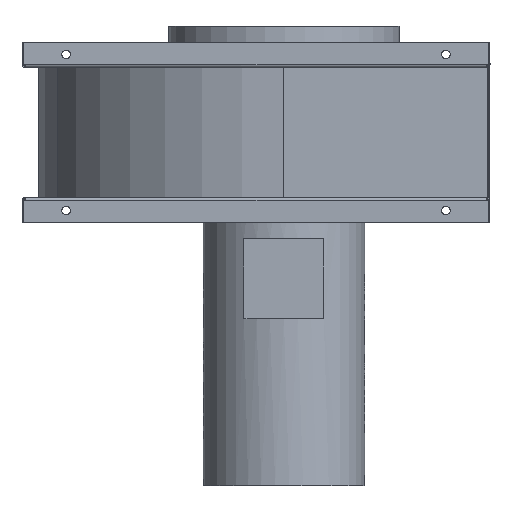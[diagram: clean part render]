
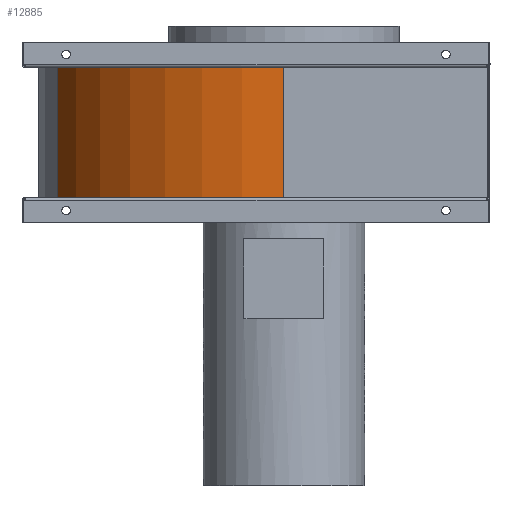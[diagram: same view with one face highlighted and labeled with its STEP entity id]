
A CAD part, left-side view. The second image highlights one B-rep face of the part: STEP entity #12885.
In plain terms, the highlighted cylindrical face has radius 261.548 mm (diameter 523.096 mm), a partial arc.
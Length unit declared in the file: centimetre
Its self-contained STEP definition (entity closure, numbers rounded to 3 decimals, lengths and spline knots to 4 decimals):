
#253=CYLINDRICAL_SURFACE('',#13535,26.1548);
#428=CIRCLE('',#13536,26.1548);
#429=CIRCLE('',#13537,26.1548);
#1551=FACE_OUTER_BOUND('',#2272,.T.);
#2272=EDGE_LOOP('',(#11288,#11289,#11290,#11291));
#3239=LINE('',#24054,#4226);
#3249=LINE('',#24085,#4236);
#4226=VECTOR('',#15509,14.);
#4236=VECTOR('',#15537,14.);
#6108=VERTEX_POINT('',#24050);
#6110=VERTEX_POINT('',#24053);
#6121=VERTEX_POINT('',#24082);
#6122=VERTEX_POINT('',#24084);
#7892=EDGE_CURVE('',#6110,#6108,#3239,.T.);
#7906=EDGE_CURVE('',#6121,#6108,#428,.T.);
#7907=EDGE_CURVE('',#6122,#6121,#3249,.T.);
#7908=EDGE_CURVE('',#6110,#6122,#429,.T.);
#11288=ORIENTED_EDGE('',*,*,#7906,.F.);
#11289=ORIENTED_EDGE('',*,*,#7907,.F.);
#11290=ORIENTED_EDGE('',*,*,#7908,.F.);
#11291=ORIENTED_EDGE('',*,*,#7892,.T.);
#12885=ADVANCED_FACE('',(#1551),#253,.T.);
#13535=AXIS2_PLACEMENT_3D('',#24081,#15533,#15534);
#13536=AXIS2_PLACEMENT_3D('',#24083,#15535,#15536);
#13537=AXIS2_PLACEMENT_3D('',#24086,#15538,#15539);
#15509=DIRECTION('',(0.,0.,1.));
#15533=DIRECTION('center_axis',(0.,0.,
1.));
#15534=DIRECTION('ref_axis',(-0.369,0.929,0.));
#15535=DIRECTION('center_axis',(0.,0.,1.));
#15536=DIRECTION('ref_axis',(-0.369,0.929,0.));
#15537=DIRECTION('',(0.,0.,1.));
#15538=DIRECTION('center_axis',(0.,0.,
-1.));
#15539=DIRECTION('ref_axis',(-0.369,0.929,0.));
#24050=CARTESIAN_POINT('',(24.8871,108.4131,0.));
#24053=CARTESIAN_POINT('',(24.8871,108.4131,-14.));
#24054=CARTESIAN_POINT('',(24.8871,108.4131,-14.));
#24081=CARTESIAN_POINT('Origin',(51.0419,108.4131,-14.));
#24082=CARTESIAN_POINT('',(41.3918,132.7225,0.));
#24083=CARTESIAN_POINT('Origin',(51.0419,108.4131,0.));
#24084=CARTESIAN_POINT('',(41.3918,132.7225,-14.));
#24085=CARTESIAN_POINT('',(41.3918,132.7225,-14.));
#24086=CARTESIAN_POINT('Origin',(51.0419,108.4131,-14.));
